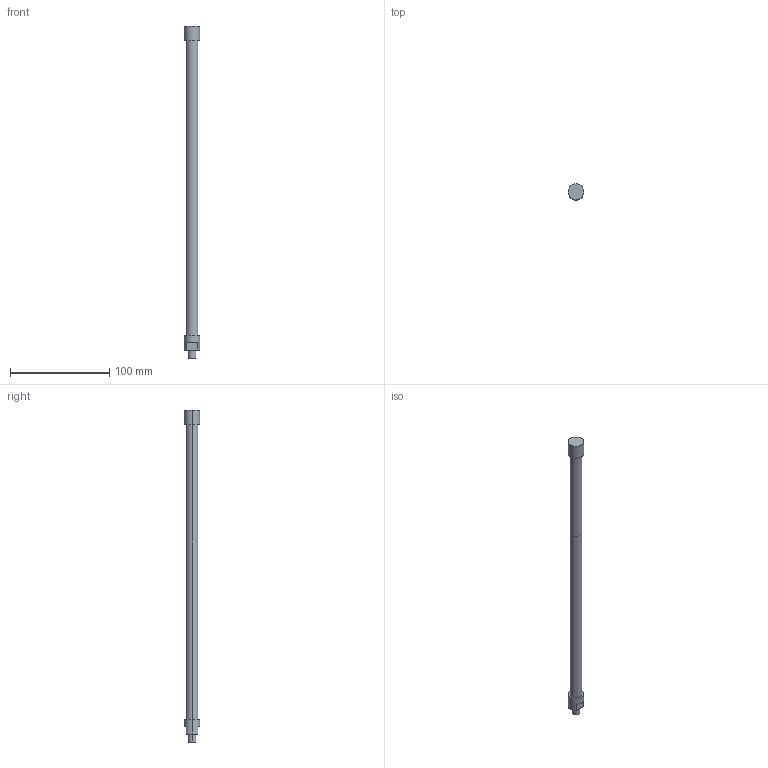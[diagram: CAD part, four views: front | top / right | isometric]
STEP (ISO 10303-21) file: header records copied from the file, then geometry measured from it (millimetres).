
FILE_DESCRIPTION(('STEP AP214'),'1');
FILE_NAME('C:/Users/Autocad/Desktop/L335-C150 MN.stp','2014-02-10T09:25:06',(' '),(' '),'Spatial InterOp 3D',' ',' ');
FILE_SCHEMA(('automotive_design'));
Length unit declared in the file: metre
Products named in the file (2): 1; 2
Bounding box: 16 x 16 x 335 mm (x, y, z)
Volume: 20747.7 mm3; surface area: 20840.6 mm2
Topology: 1 solids, 5 shells, 27 faces, 62 edges, 46 vertices
Faces by surface type: cylinder 14, plane 13
Entity records: 1056 total; most frequent: DIRECTION 158, CARTESIAN_POINT 137, ORIENTED_EDGE 112, AXIS2_PLACEMENT_3D 67, EDGE_CURVE 62, VERTEX_POINT 46, CIRCLE 38, EDGE_LOOP 32
